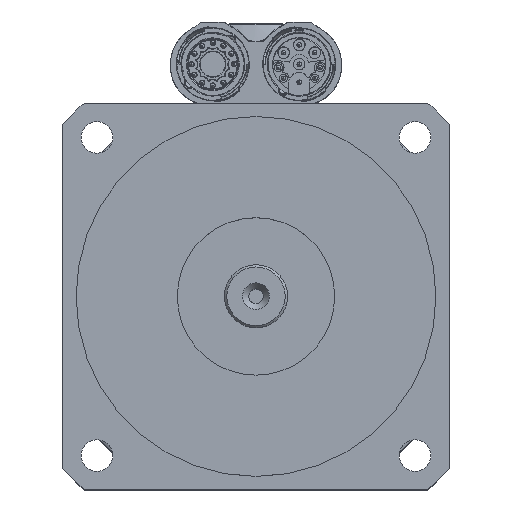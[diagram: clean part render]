
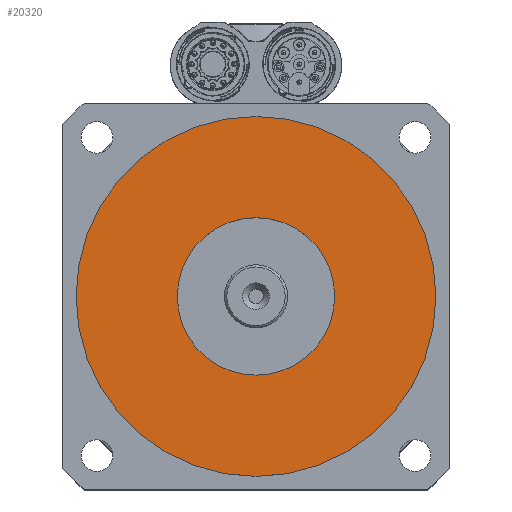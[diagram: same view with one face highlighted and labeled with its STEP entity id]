
A CAD part, top view. The second image highlights one B-rep face of the part: STEP entity #20320.
In plain terms, the highlighted planar face has unit normal (0, 0, 1).
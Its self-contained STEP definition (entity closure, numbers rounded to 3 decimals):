
#2464=CIRCLE('',#21690,17.5);
#2465=CIRCLE('',#21693,40.);
#3477=VERTEX_POINT('',#29020);
#3478=VERTEX_POINT('',#29024);
#7795=EDGE_CURVE('',#3477,#3477,#2464,.T.);
#7796=EDGE_CURVE('',#3478,#3478,#2465,.T.);
#10975=ORIENTED_EDGE('',*,*,#7796,.F.);
#10976=ORIENTED_EDGE('',*,*,#7795,.T.);
#17156=EDGE_LOOP('',(#10975));
#17157=EDGE_LOOP('',(#10976));
#18744=FACE_BOUND('',#17156,.T.);
#18745=FACE_BOUND('',#17157,.T.);
#20320=ADVANCED_FACE('',(#18744,#18745),#69930,.F.);
#21690=AXIS2_PLACEMENT_3D('',#29019,#23787,#23788);
#21693=AXIS2_PLACEMENT_3D('',#29023,#23792,#23793);
#21695=AXIS2_PLACEMENT_3D('',#29027,#23796,$);
#23787=DIRECTION('',(0.,0.,-1.));
#23788=DIRECTION('',(-17.5,0.,0.));
#23792=DIRECTION('',(0.,0.,-1.));
#23793=DIRECTION('',(-40.,0.,0.));
#23796=DIRECTION('',(0.,0.,-1.));
#29019=CARTESIAN_POINT('',(0.,0.,177.));
#29020=CARTESIAN_POINT('',(17.5,0.,177.));
#29023=CARTESIAN_POINT('',(0.,0.,177.));
#29024=CARTESIAN_POINT('',(40.,0.,177.));
#29027=CARTESIAN_POINT('',(0.,0.,177.));
#69930=PLANE('',#21695);
